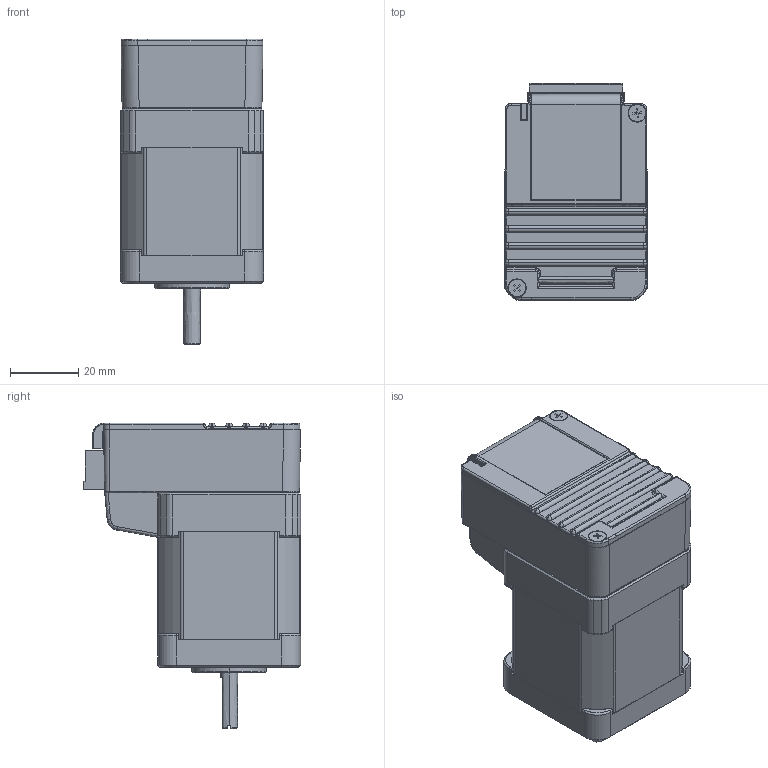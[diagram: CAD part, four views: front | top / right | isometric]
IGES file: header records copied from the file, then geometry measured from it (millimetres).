
Start section: SolidWorks IGES file using analytic representation for surfaces
Global section: file name: \\192.168.1.175\Public\CAD Files\Motors\CoolmuscleMotors\CM3 Series CAD\CM3-17L\CM3-17L50A.IGS; native system: SolidWorks 2019; preprocessor: SolidWorks 2019; author: Chris Murray; date: 210720.102921; units: millimetre
Bounding box: 42 x 63.75 x 89.8 mm (x, y, z)
Surface area: 22579.8 mm2 (no closed solid volume)
Topology: 0 solids, 0 shells, 746 faces, 5791 edges, 5770 vertices
Faces by surface type: bspline 449, revolution 297
